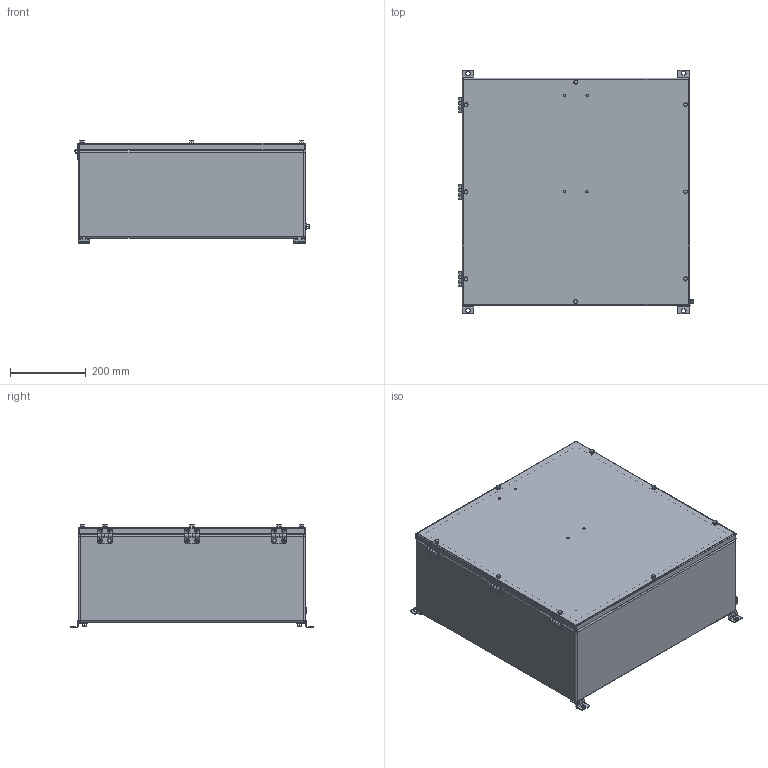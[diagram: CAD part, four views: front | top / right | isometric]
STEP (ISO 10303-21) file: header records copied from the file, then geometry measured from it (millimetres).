
FILE_DESCRIPTION((''),'2;1');
FILE_NAME('\\192.168.5.25\cortem_klient\INVENTOR БАЗА МОДЕЛЕЙ\Актуальная база моделей для отдела продаж\КСРВ-М\КСРВ-М606025_М3.stp','2019-04-09T14:46:36',('A.S.Kozlov'),(''),'Autodesk Inventor 2012','Autodesk Inventor 2012','');
FILE_SCHEMA(('CONFIG_CONTROL_DESIGN'));
Length unit declared in the file: millimetre
Products named in the file (1): КСРВ-(параметрическая модель)_Внешний контур_1
Bounding box: 619.19 x 644 x 271.7 mm (x, y, z)
Surface area: 1756056.5 mm2 (no closed solid volume)
Topology: 0 solids, 76 shells, 209 faces, 1081 edges, 911 vertices
Faces by surface type: plane 136, cylinder 63, sphere 10
Full cylindrical faces by diameter (mm): 5.9 x2, 10 x5
Entity records: 11243 total; most frequent: CARTESIAN_POINT 2318, DIRECTION 1816, ORIENTED_EDGE 1260, EDGE_CURVE 1063, VERTEX_POINT 903, AXIS2_PLACEMENT_3D 614, VECTOR 588, LINE 588
